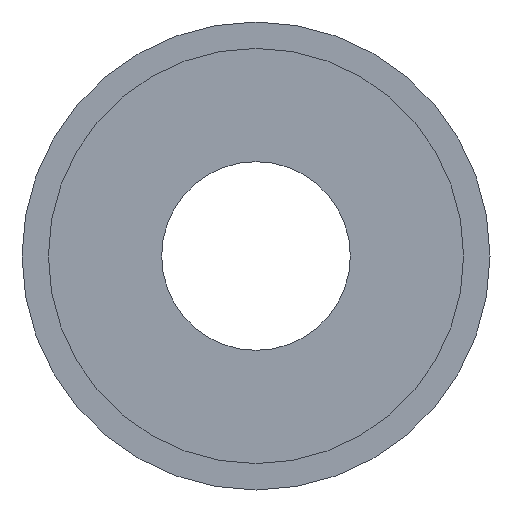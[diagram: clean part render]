
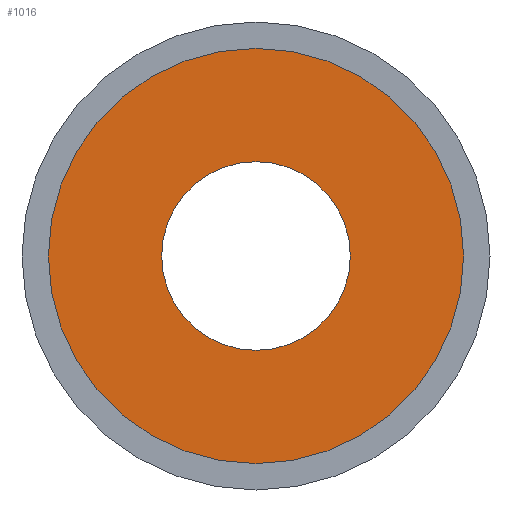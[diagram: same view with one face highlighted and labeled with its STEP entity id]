
A CAD part, front view. The second image highlights one B-rep face of the part: STEP entity #1016.
In plain terms, the highlighted planar face has unit normal (0, -1, 0).
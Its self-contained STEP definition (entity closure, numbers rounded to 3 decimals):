
#15 = ORIENTED_EDGE ( 'NONE', *, *, #1427, .T. ) ;
#30 = DIRECTION ( 'NONE',  ( 0., 0., 1. ) ) ;
#42 = VERTEX_POINT ( 'NONE', #905 ) ;
#85 = VERTEX_POINT ( 'NONE', #719 ) ;
#144 = DIRECTION ( 'NONE',  ( 0., 0., -1. ) ) ;
#286 = VERTEX_POINT ( 'NONE', #631 ) ;
#450 = CARTESIAN_POINT ( 'NONE',  ( 0., -15., 0. ) ) ;
#544 = DIRECTION ( 'NONE',  ( 0., -1., 0. ) ) ;
#631 = CARTESIAN_POINT ( 'NONE',  ( 0., -15., 12.5 ) ) ;
#641 = FACE_BOUND ( 'NONE', #1159, .T. ) ;
#719 = CARTESIAN_POINT ( 'NONE',  ( 0., -15., -12.5 ) ) ;
#732 = ORIENTED_EDGE ( 'NONE', *, *, #1798, .F. ) ;
#742 = AXIS2_PLACEMENT_3D ( 'NONE', #1351, #544, #1958 ) ;
#771 = CARTESIAN_POINT ( 'NONE',  ( 0., -15., 0. ) ) ;
#840 = EDGE_CURVE ( 'NONE', #85, #286, #1077, .T. ) ;
#854 = AXIS2_PLACEMENT_3D ( 'NONE', #1505, #1657, #1363 ) ;
#905 = CARTESIAN_POINT ( 'NONE',  ( 0., -15., -27.5 ) ) ;
#1016 = ADVANCED_FACE ( 'NONE', ( #641, #1950 ), #1495, .F. ) ;
#1030 = CIRCLE ( 'NONE', #854, 12.5 ) ;
#1077 = CIRCLE ( 'NONE', #742, 12.5 ) ;
#1159 = EDGE_LOOP ( 'NONE', ( #2054, #732 ) ) ;
#1225 = EDGE_CURVE ( 'NONE', #42, #1796, #1655, .T. ) ;
#1351 = CARTESIAN_POINT ( 'NONE',  ( 0., -15., 0. ) ) ;
#1363 = DIRECTION ( 'NONE',  ( 0., 0., -1. ) ) ;
#1372 = AXIS2_PLACEMENT_3D ( 'NONE', #1955, #1972, #30 ) ;
#1427 = EDGE_CURVE ( 'NONE', #1796, #42, #1811, .T. ) ;
#1457 = AXIS2_PLACEMENT_3D ( 'NONE', #771, #1894, #144 ) ;
#1495 = PLANE ( 'NONE',  #1372 ) ;
#1505 = CARTESIAN_POINT ( 'NONE',  ( 0., -15., 0. ) ) ;
#1585 = EDGE_LOOP ( 'NONE', ( #1931, #15 ) ) ;
#1592 = AXIS2_PLACEMENT_3D ( 'NONE', #450, #1710, #1718 ) ;
#1655 = CIRCLE ( 'NONE', #1592, 27.5 ) ;
#1657 = DIRECTION ( 'NONE',  ( 0., -1., 0. ) ) ;
#1710 = DIRECTION ( 'NONE',  ( 0., -1., 0. ) ) ;
#1718 = DIRECTION ( 'NONE',  ( 0., 0., -1. ) ) ;
#1796 = VERTEX_POINT ( 'NONE', #1990 ) ;
#1798 = EDGE_CURVE ( 'NONE', #286, #85, #1030, .T. ) ;
#1811 = CIRCLE ( 'NONE', #1457, 27.5 ) ;
#1894 = DIRECTION ( 'NONE',  ( 0., -1., 0. ) ) ;
#1931 = ORIENTED_EDGE ( 'NONE', *, *, #1225, .T. ) ;
#1950 = FACE_OUTER_BOUND ( 'NONE', #1585, .T. ) ;
#1955 = CARTESIAN_POINT ( 'NONE',  ( 0., -15., 12.5 ) ) ;
#1958 = DIRECTION ( 'NONE',  ( 0., 0., -1. ) ) ;
#1972 = DIRECTION ( 'NONE',  ( 0., 1., 0. ) ) ;
#1990 = CARTESIAN_POINT ( 'NONE',  ( 0., -15., 27.5 ) ) ;
#2054 = ORIENTED_EDGE ( 'NONE', *, *, #840, .F. ) ;
